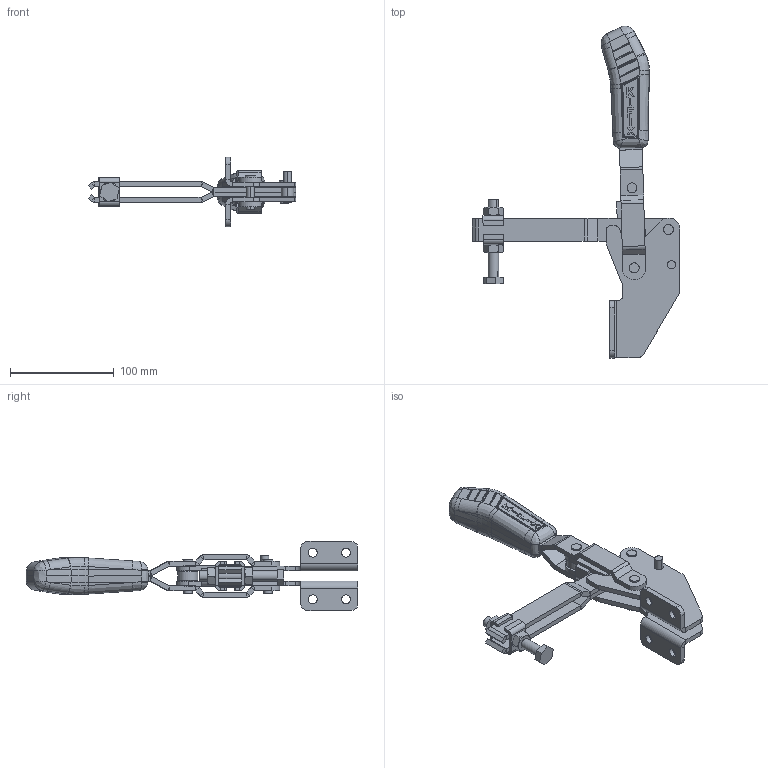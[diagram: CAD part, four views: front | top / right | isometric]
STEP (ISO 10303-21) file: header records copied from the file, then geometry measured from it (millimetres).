
FILE_DESCRIPTION (( 'STEP AP203' ), '1' );
FILE_NAME ('KF-411 DB.STEP', '2014-08-01T12:47:05', ( 'Ricardo' ), ( '' ), 'SwSTEP 2.0', 'SolidWorks 2013', '' );
FILE_SCHEMA (( 'CONFIG_CONTROL_DESIGN' ));
Length unit declared in the file: millimetre
Products named in the file (15): 07.60003; 04.10003B_Direita; KF-411 DB; 04.20003; 05.20006; 06.50009; 02.12024_Direita; 06.50010; 02.12024_Esquerda; 14.10002; 03.14005; 11.50003; 01.10014; 12.50004; 04.10003A_Direita
Assembly tree (20 placements, depth 2):
  KF-411 DB
    02.12024_Direita
    02.12024_Esquerda
    03.14005  x2
    01.10014  x2
    04.10003A_Direita
    04.10003B_Direita
    04.20003
    05.20006
    06.50009  x2
    06.50010  x2
    14.10002  x2
    11.50003  x2
    12.50004
    07.60003
Bounding box: 200.41 x 320.58 x 67 mm (x, y, z)
Volume: 297057.3 mm3; surface area: 124620.2 mm2
Topology: 20 solids, 20 shells, 873 faces, 2101 edges, 1279 vertices
Faces by surface type: plane 379, cylinder 268, bspline 143, sphere 48, cone 32, torus 3
Entity records: 26157 total; most frequent: CARTESIAN_POINT 8982, ORIENTED_EDGE 3458, DIRECTION 2838, EDGE_CURVE 1729, AXIS2_PLACEMENT_3D 1079, VERTEX_POINT 1073, EDGE_LOOP 782, ADVANCED_FACE 711
